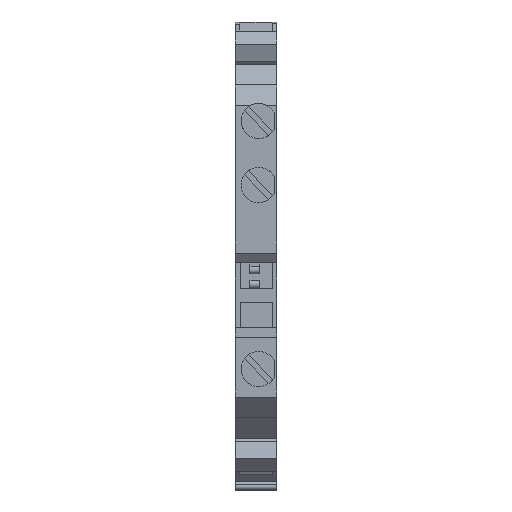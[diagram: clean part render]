
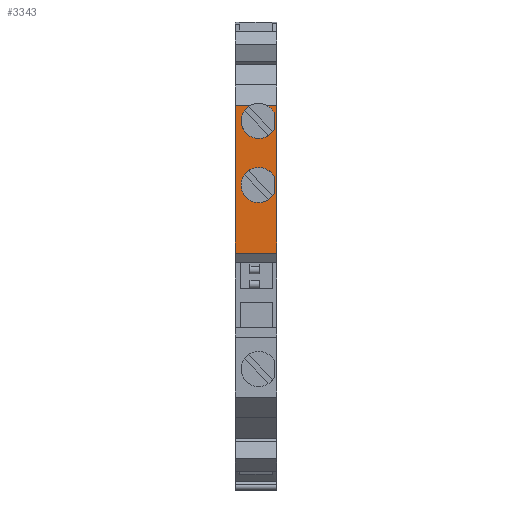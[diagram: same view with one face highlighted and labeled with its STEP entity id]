
A CAD part, top view. The second image highlights one B-rep face of the part: STEP entity #3343.
In plain terms, the highlighted planar face has unit normal (0, 0, 1).
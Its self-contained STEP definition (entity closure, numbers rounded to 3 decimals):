
#90=CARTESIAN_POINT('',(0.,29.2,46.85));
#91=VERTEX_POINT('',#90);
#98=CARTESIAN_POINT('',(0.,47.4,46.85));
#99=VERTEX_POINT('',#98);
#100=CARTESIAN_POINT('',(0.,29.2,46.85));
#101=DIRECTION('',(0.,1.,-0.));
#102=VECTOR('',#101,18.2);
#103=LINE('',#100,#102);
#104=EDGE_CURVE('',#91,#99,#103,.T.);
#1375=CARTESIAN_POINT('',(5.15,47.4,46.85));
#1376=VERTEX_POINT('',#1375);
#1383=CARTESIAN_POINT('',(5.15,29.2,46.85));
#1384=VERTEX_POINT('',#1383);
#1385=CARTESIAN_POINT('',(5.15,29.2,46.85));
#1386=DIRECTION('',(0.,1.,-0.));
#1387=VECTOR('',#1386,18.2);
#1388=LINE('',#1385,#1387);
#1389=EDGE_CURVE('',#1384,#1376,#1388,.T.);
#3201=CARTESIAN_POINT('',(2.9,43.35,46.85));
#3202=VERTEX_POINT('',#3201);
#3235=CARTESIAN_POINT('',(4.8,46.584,46.85));
#3236=VERTEX_POINT('',#3235);
#3243=CARTESIAN_POINT('',(4.002,47.4,46.85));
#3244=VERTEX_POINT('',#3243);
#3245=CARTESIAN_POINT('',(2.9,45.525,46.85));
#3246=DIRECTION('',(-0.,-0.,-1.));
#3247=DIRECTION('',(0.,1.,-0.));
#3248=AXIS2_PLACEMENT_3D('',#3245,#3246,#3247);
#3249=CIRCLE('',#3248,2.175);
#3250=EDGE_CURVE('',#3244,#3236,#3249,.T.);
#3252=CARTESIAN_POINT('',(1.798,47.4,46.85));
#3253=VERTEX_POINT('',#3252);
#3260=CARTESIAN_POINT('',(2.9,45.525,46.85));
#3261=DIRECTION('',(-0.,-0.,-1.));
#3262=DIRECTION('',(0.,1.,-0.));
#3263=AXIS2_PLACEMENT_3D('',#3260,#3261,#3262);
#3264=CIRCLE('',#3263,2.175);
#3265=EDGE_CURVE('',#3202,#3253,#3264,.T.);
#3271=CARTESIAN_POINT('',(0.,29.55,46.85));
#3272=DIRECTION('',(0.,0.,1.));
#3273=DIRECTION('',(-0.,-1.,0.));
#3274=AXIS2_PLACEMENT_3D('',#3271,#3272,#3273);
#3275=PLANE('',#3274);
#3276=CARTESIAN_POINT('',(4.8,38.659,46.85));
#3277=VERTEX_POINT('',#3276);
#3278=CARTESIAN_POINT('',(4.8,36.541,46.85));
#3279=VERTEX_POINT('',#3278);
#3280=CARTESIAN_POINT('',(4.8,38.659,46.85));
#3281=DIRECTION('',(-0.,-1.,0.));
#3282=VECTOR('',#3281,2.117);
#3283=LINE('',#3280,#3282);
#3284=EDGE_CURVE('',#3277,#3279,#3283,.T.);
#3285=ORIENTED_EDGE('',*,*,#3284,.T.);
#3286=CARTESIAN_POINT('',(2.9,35.425,46.85));
#3287=VERTEX_POINT('',#3286);
#3288=CARTESIAN_POINT('',(2.9,37.6,46.85));
#3289=DIRECTION('',(-0.,-0.,-1.));
#3290=DIRECTION('',(0.,1.,-0.));
#3291=AXIS2_PLACEMENT_3D('',#3288,#3289,#3290);
#3292=CIRCLE('',#3291,2.175);
#3293=EDGE_CURVE('',#3279,#3287,#3292,.T.);
#3294=ORIENTED_EDGE('',*,*,#3293,.T.);
#3295=CARTESIAN_POINT('',(2.9,37.6,46.85));
#3296=DIRECTION('',(-0.,-0.,-1.));
#3297=DIRECTION('',(0.,1.,-0.));
#3298=AXIS2_PLACEMENT_3D('',#3295,#3296,#3297);
#3299=CIRCLE('',#3298,2.175);
#3300=EDGE_CURVE('',#3287,#3277,#3299,.T.);
#3301=ORIENTED_EDGE('',*,*,#3300,.T.);
#3302=EDGE_LOOP('',(#3285,#3294,#3301));
#3303=FACE_BOUND('',#3302,.T.);
#3304=CARTESIAN_POINT('',(4.8,44.466,46.85));
#3305=VERTEX_POINT('',#3304);
#3306=CARTESIAN_POINT('',(4.8,46.584,46.85));
#3307=DIRECTION('',(-0.,-1.,0.));
#3308=VECTOR('',#3307,2.117);
#3309=LINE('',#3306,#3308);
#3310=EDGE_CURVE('',#3236,#3305,#3309,.T.);
#3311=ORIENTED_EDGE('',*,*,#3310,.T.);
#3312=CARTESIAN_POINT('',(2.9,45.525,46.85));
#3313=DIRECTION('',(-0.,-0.,-1.));
#3314=DIRECTION('',(0.,1.,-0.));
#3315=AXIS2_PLACEMENT_3D('',#3312,#3313,#3314);
#3316=CIRCLE('',#3315,2.175);
#3317=EDGE_CURVE('',#3305,#3202,#3316,.T.);
#3318=ORIENTED_EDGE('',*,*,#3317,.T.);
#3319=ORIENTED_EDGE('',*,*,#3265,.T.);
#3320=CARTESIAN_POINT('',(0.,47.4,46.85));
#3321=DIRECTION('',(1.,-0.,-0.));
#3322=VECTOR('',#3321,1.798);
#3323=LINE('',#3320,#3322);
#3324=EDGE_CURVE('',#99,#3253,#3323,.T.);
#3325=ORIENTED_EDGE('',*,*,#3324,.F.);
#3326=ORIENTED_EDGE('',*,*,#104,.F.);
#3327=CARTESIAN_POINT('',(5.15,29.2,46.85));
#3328=DIRECTION('',(-1.,0.,0.));
#3329=VECTOR('',#3328,5.15);
#3330=LINE('',#3327,#3329);
#3331=EDGE_CURVE('',#1384,#91,#3330,.T.);
#3332=ORIENTED_EDGE('',*,*,#3331,.F.);
#3333=ORIENTED_EDGE('',*,*,#1389,.T.);
#3334=CARTESIAN_POINT('',(5.15,47.4,46.85));
#3335=DIRECTION('',(-1.,0.,0.));
#3336=VECTOR('',#3335,1.148);
#3337=LINE('',#3334,#3336);
#3338=EDGE_CURVE('',#1376,#3244,#3337,.T.);
#3339=ORIENTED_EDGE('',*,*,#3338,.T.);
#3340=ORIENTED_EDGE('',*,*,#3250,.T.);
#3341=EDGE_LOOP('',(#3311,#3318,#3319,#3325,#3326,#3332,#3333,#3339,#3340));
#3342=FACE_BOUND('',#3341,.T.);
#3343=ADVANCED_FACE('',(#3303,#3342),#3275,.T.);
